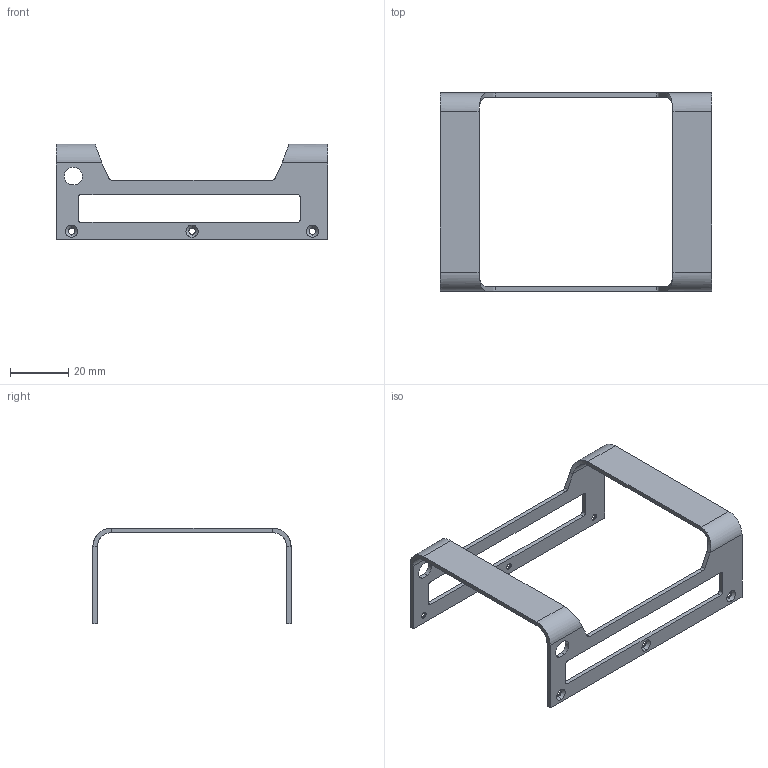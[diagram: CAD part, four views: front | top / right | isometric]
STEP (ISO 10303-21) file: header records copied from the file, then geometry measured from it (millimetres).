
FILE_DESCRIPTION((''),'2;1');
FILE_NAME('PJ_AL02_1_1','2024-12-12T13:57:22',('admin'),(''),'CREO PARAMETRIC BY PTC INC, 2024273','CREO PARAMETRIC BY PTC INC, 2024273','');
FILE_SCHEMA(('CONFIG_CONTROL_DESIGN','SHAPE_APPEARANCE_LAYERS_GROUPS'));
Length unit declared in the file: millimetre
Products named in the file (1): PJ_AL02_1_1
Bounding box: 93.5 x 68.3 x 33 mm (x, y, z)
Volume: 7007.2 mm3; surface area: 11086.3 mm2
Topology: 1 solids, 1 shells, 91 faces, 229 edges, 138 vertices
Faces by surface type: plane 38, cylinder 37, cone 12, bspline 4
Entity records: 4135 total; most frequent: COLOUR_RGB 1124, CARTESIAN_POINT 724, DIRECTION 473, ORIENTED_EDGE 458, EDGE_CURVE 229, AXIS2_PLACEMENT_3D 165, VECTOR 143, LINE 143
